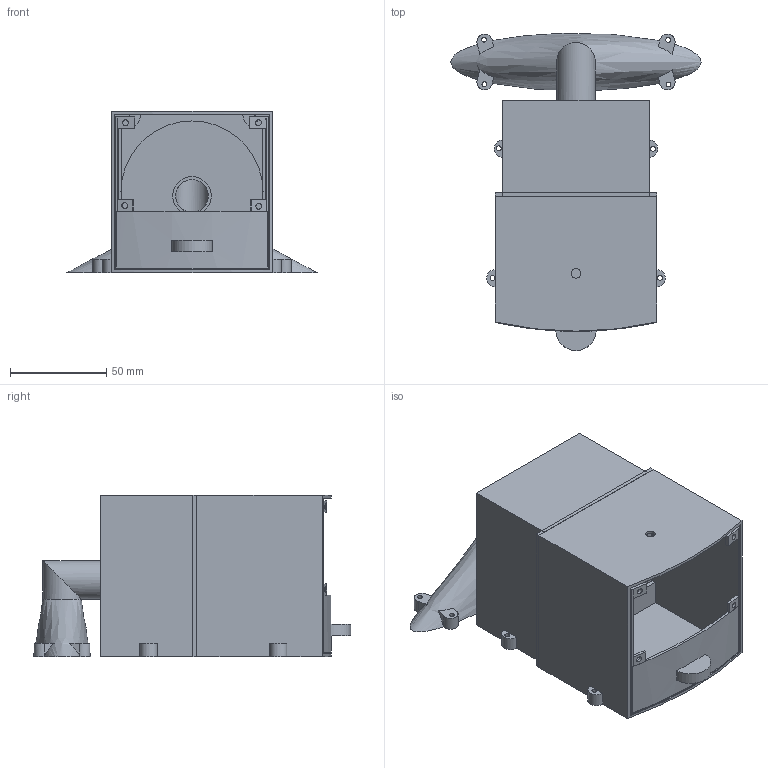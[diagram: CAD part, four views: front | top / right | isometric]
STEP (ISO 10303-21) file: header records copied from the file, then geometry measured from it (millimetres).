
FILE_DESCRIPTION(/* description */ (''),/* implementation_level */ '2;1');
FILE_NAME(/* name */ 'vacuum cleaning part.step',/* time_stamp */ '2026-07-16T20:35:00+05:30',/* author */ (''),/* organization */ (''),/* preprocessor_version */ 'ST-DEVELOPER v20.1',/* originating_system */ 'Autodesk Translation Framework v15.8.0.0',/* authorisation */ '');
FILE_SCHEMA (('AUTOMOTIVE_DESIGN { 1 0 10303 214 3 1 1 }'));
Length unit declared in the file: millimetre
Products named in the file (4): 2026-07-03-22-51-59-267; 2026-07-04-00-41-12-247; 2026-07-04-01-55-42-815; 2026-07-04-02-13-53-910
Assembly tree (3 placements, depth 2):
  2026-07-03-22-51-59-267
    2026-07-04-00-41-12-247
    2026-07-04-01-55-42-815
    2026-07-04-02-13-53-910
Bounding box: 129.99 x 164.89 x 84 mm (x, y, z)
Volume: 114283.5 mm3; surface area: 151272 mm2
Topology: 4 solids, 4 shells, 191 faces, 516 edges, 338 vertices
Faces by surface type: plane 93, cylinder 82, cone 12, bspline 4
Full cylindrical faces by diameter (mm): 2.529 x19, 3 x10, 3.086 x3, 5 x1, 17 x2, 20 x2, 73.8 x1
Entity records: 8660 total; most frequent: CARTESIAN_POINT 3683, ORIENTED_EDGE 1032, DIRECTION 958, EDGE_CURVE 516, VERTEX_POINT 338, AXIS2_PLACEMENT_3D 337, LINE 284, VECTOR 284
